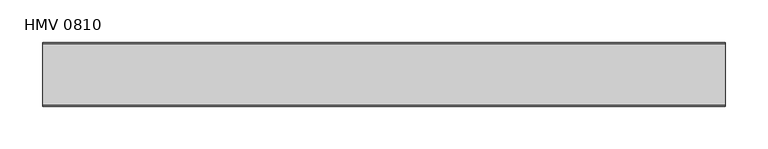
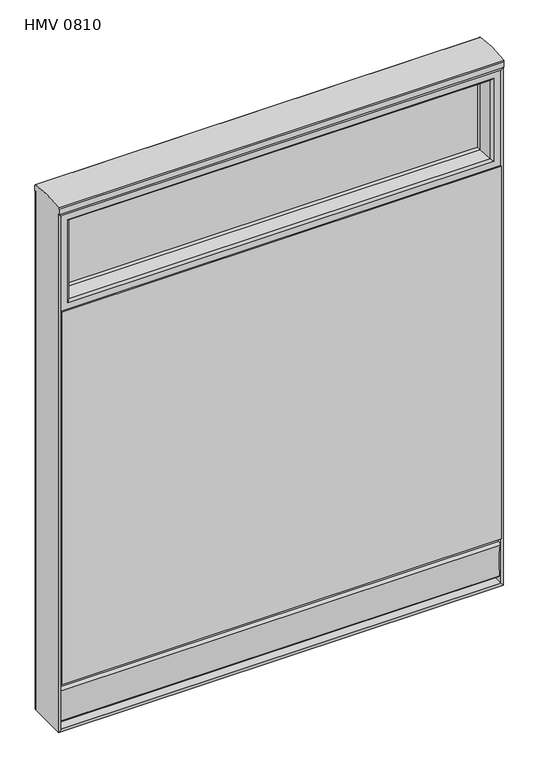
"""IFC4 building model written with IfcOpenShell, lengths in millimetres: furniture geometry, Mobiliário_MobiliáriodeEscritório_LinhaHabitat_PainelHabitatMisto-MelaminaeVidro_Marelli : HMV 0810."""

from ifc_helpers import new_model, si_unit, point, frame, frame_2d, origin, place, context, project, spatial, polyline, circle_curve, ellipse_curve, trimmed, segment, composite_curve, outline, extrude, source, transform, mapped, element, save
from ifc_brep_helpers import plane_surface, cylinder_surface, advanced_brep


def hmv_0810_a3c802d2(model_context):
    return source(origin(), model_context, "Body", "SolidModel", [
        extrude(outline(composite_curve([segment(polyline([(55.0, 90.0), (55.0, 80.0), (65.980067, 80.0)]), True, "CONTINUOUS"), segment(trimmed(circle_curve(frame_2d((65.980067, 75.980067)), 4.019933), [point((65.980067, 80.0))], [point((69.831007, 74.8267575))], False, "CARTESIAN"), True, "CONTINUOUS"), segment(trimmed(circle_curve(frame_2d((200.7096213, 43.9493843)), 134.4716471), [point((69.831007, 74.8267575))], [point((68.9861321, 16.9022723))], True, "CARTESIAN"), True, "CONTINUOUS"), segment(trimmed(circle_curve(frame_2d((67.0270055, 16.5)), 2.0), [point((68.9861321, 16.9022723))], [point((67.0270055, 14.5))], False, "CARTESIAN"), True, "CONTINUOUS"), segment(polyline([(67.0270055, 14.5), (55.0, 14.5), (55.0, 4.5), (20.0, 4.5), (20.0, 14.5), (7.9729945, 14.5)]), True, "CONTINUOUS"), segment(trimmed(circle_curve(frame_2d((7.9729945, 16.5)), 2.0), [point((7.9729945, 14.5))], [point((6.0138679, 16.9022723))], False, "CARTESIAN"), True, "CONTINUOUS"), segment(trimmed(circle_curve(frame_2d((-125.7096213, 43.9493843)), 134.4716471), [point((6.0138679, 16.9022723))], [point((5.168993, 74.8267575))], True, "CARTESIAN"), True, "CONTINUOUS"), segment(trimmed(circle_curve(frame_2d((9.019933, 75.980067)), 4.019933), [point((5.168993, 74.8267575))], [point((9.019933, 80.0))], False, "CARTESIAN"), True, "CONTINUOUS"), segment(polyline([(9.019933, 80.0), (20.0, 80.0), (20.0, 90.0), (55.0, 90.0)]), True, "CONTINUOUS")], self_intersect=False)), frame((4.5, 0.0, 0.0), z_axis=(1.0, 0.0, 0.0), x_axis=(0.0, 1.0, 0.0)), (0.0, 0.0, 1.0), 791.0),
        advanced_brep(
        [(0.0, 0.0, 984.4135569), (0.0, 0.0, 994.184829), (0.0, 1.4147018, 996.2946718), (0.0, 73.7415241, 996.2666026), (0.0, 75.0, 994.2721511), (0.0, 75.0, 984.4135569), (0.0, 72.75, 984.4135569), (0.0, 72.75, 0.0), (0.0, 2.25, 0.0), (0.0, 2.25, 984.4135569), (800.0, 75.0, 984.4135569), (800.0, 75.0, 994.2721511), (800.0, 73.7415241, 996.2666026), (800.0, 1.4147018, 996.2946718), (800.0, 0.0, 994.184829), (800.0, 0.0, 984.4135569), (800.0, 2.25, 984.4135569), (800.0, 2.25, 0.0), (800.0, 72.75, 0.0), (800.0, 72.75, 984.4135569), (4.5, 72.75, 4.5), (795.5, 72.75, 4.5), (795.5, 2.25, 4.5), (4.5, 2.25, 4.5), (795.5, 72.75, 979.9135569), (795.5, 2.25, 979.9135569), (4.5, 72.75, 979.9135569), (4.5, 2.25, 979.9135569)],
        [
            (0, 1),
            (1, 2, circle_curve(frame((0.0, 2.2806283, 994.184829), z_axis=(-1.0, 0.0, 0.0), x_axis=(0.0, 1.0, 0.0)), 2.2806283)),
            (2, 3, circle_curve(frame((0.0, 37.5106051, 822.3310283), z_axis=(-1.0, 0.0, 0.0), x_axis=(0.0, 1.0, 0.0)), 177.6689717)),
            (3, 4, circle_curve(frame((0.0, 72.7903437, 994.2721511), z_axis=(-1.0, 0.0, 0.0), x_axis=(0.0, 1.0, 0.0)), 2.2096563)),
            (4, 5),
            (5, 6),
            (6, 7),
            (7, 8),
            (8, 9),
            (9, 0),
            (10, 11),
            (11, 12, circle_curve(frame((800.0, 72.7903437, 994.2721511), z_axis=(1.0, 0.0, 0.0), x_axis=(0.0, 1.0, 0.0)), 2.2096563)),
            (12, 13, circle_curve(frame((800.0, 37.5106051, 822.3310283), z_axis=(1.0, 0.0, 0.0), x_axis=(0.0, 1.0, 0.0)), 177.6689717)),
            (13, 14, circle_curve(frame((800.0, 2.2806283, 994.184829), z_axis=(1.0, 0.0, 0.0), x_axis=(0.0, 1.0, 0.0)), 2.2806283)),
            (14, 15),
            (15, 16),
            (16, 17),
            (17, 18),
            (18, 19),
            (19, 10),
            (4, 11),
            (10, 5),
            (3, 12),
            (2, 13),
            (1, 14),
            (0, 15),
            (19, 6),
            (9, 16),
            (7, 20, ellipse_curve(frame((2.25, 72.75, 2.25), z_axis=(0.7071067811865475, 0.0, -0.7071067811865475), x_axis=(-0.7071067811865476, 0.0, -0.7071067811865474)), 3.1819805, 2.25)),
            (20, 21),
            (21, 18, ellipse_curve(frame((797.75, 72.75, 2.25), z_axis=(-0.7071067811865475, 0.0, -0.7071067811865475), x_axis=(-0.7071067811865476, 0.0, 0.7071067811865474)), 3.1819805, 2.25)),
            (18, 7),
            (17, 8),
            (17, 22, ellipse_curve(frame((797.75, 2.25, 2.25), z_axis=(-0.7071067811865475, 0.0, -0.7071067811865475), x_axis=(-0.7071067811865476, 0.0, 0.7071067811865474)), 3.1819805, 2.25)),
            (22, 23),
            (23, 8, ellipse_curve(frame((2.25, 2.25, 2.25), z_axis=(0.7071067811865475, 0.0, -0.7071067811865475), x_axis=(-0.7071067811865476, 0.0, -0.7071067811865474)), 3.1819805, 2.25)),
            (20, 23),
            (22, 21),
            (21, 24),
            (24, 19, ellipse_curve(frame((797.75, 72.75, 982.1635569), z_axis=(0.7071067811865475, 0.0, -0.7071067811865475), x_axis=(-0.7071067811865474, 0.0, -0.7071067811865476)), 3.1819805, 2.25)),
            (16, 25, ellipse_curve(frame((797.75, 2.25, 982.1635569), z_axis=(0.7071067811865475, 0.0, -0.7071067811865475), x_axis=(-0.7071067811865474, 0.0, -0.7071067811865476)), 3.1819805, 2.25)),
            (25, 22),
            (25, 24),
            (24, 26),
            (26, 6, ellipse_curve(frame((2.25, 72.75, 982.1635569), z_axis=(0.7071067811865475, 0.0, 0.7071067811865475), x_axis=(0.7071067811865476, 0.0, -0.7071067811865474)), 3.1819805, 2.25)),
            (9, 27, ellipse_curve(frame((2.25, 2.25, 982.1635569), z_axis=(0.7071067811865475, 0.0, 0.7071067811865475), x_axis=(0.7071067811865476, 0.0, -0.7071067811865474)), 3.1819805, 2.25)),
            (27, 25),
            (27, 26),
            (26, 20),
            (23, 27),
        ],
        [
            plane_surface(frame((0.0, 75.0, 994.2721511), z_axis=(-1.0, 0.0, 0.0), x_axis=(0.0, 0.0, -1.0))),
            plane_surface(frame((800.0, 75.0, 994.2721511), z_axis=(1.0, 0.0, 0.0), x_axis=(0.0, 0.0, 1.0))),
            plane_surface(frame((800.0, 75.0, 984.4135569), z_axis=(0.0, 1.0, 0.0), x_axis=(-1.0, 0.0, 0.0))),
            cylinder_surface(frame((0.0, 72.7903437, 994.2721511), z_axis=(1.0, 0.0, 0.0), x_axis=(0.0, 1.0, 0.0)), 2.2096563),
            cylinder_surface(frame((0.0, 37.5106051, 822.3310283), z_axis=(1.0, 0.0, 0.0), x_axis=(0.0, 1.0, 0.0)), 177.6689717),
            cylinder_surface(frame((0.0, 2.2806283, 994.184829), z_axis=(1.0, 0.0, 0.0), x_axis=(0.0, 1.0, 0.0)), 2.2806283),
            plane_surface(frame((800.0, 0.0, 994.184829), z_axis=(0.0, -1.0, 0.0), x_axis=(-1.0, 0.0, 0.0))),
            plane_surface(frame((800.0, 0.0, 984.4135569), z_axis=(0.0, 0.0, -1.0), x_axis=(-1.0, 0.0, 0.0))),
            cylinder_surface(frame((0.0, 72.75, 2.25), z_axis=(-1.0, 0.0, 0.0), x_axis=(0.0, -1.0, 0.0)), 2.25),
            plane_surface(frame((0.0, 72.75, 0.0), z_axis=(0.0, 0.0, -1.0), x_axis=(1.0, 0.0, 0.0))),
            cylinder_surface(frame((0.0, 2.25, 2.25), z_axis=(-1.0, 0.0, 0.0), x_axis=(0.0, -1.0, 0.0)), 2.25),
            plane_surface(frame((4.5, 2.25, 4.5), z_axis=(0.0, 0.0, 1.0), x_axis=(1.0, 0.0, 0.0))),
            cylinder_surface(frame((797.75, 72.75, 0.0), z_axis=(0.0, 0.0, -1.0), x_axis=(0.0, -1.0, 0.0)), 2.25),
            cylinder_surface(frame((797.75, 2.25, 0.0), z_axis=(0.0, 0.0, -1.0), x_axis=(0.0, -1.0, 0.0)), 2.25),
            plane_surface(frame((795.5, 2.25, 4.5), z_axis=(-1.0, 0.0, 0.0), x_axis=(0.0, 0.0, 1.0))),
            cylinder_surface(frame((800.0, 72.75, 982.1635569), z_axis=(1.0, 0.0, 0.0), x_axis=(0.0, -1.0, 0.0)), 2.25),
            cylinder_surface(frame((800.0, 2.25, 982.1635569), z_axis=(1.0, 0.0, 0.0), x_axis=(0.0, -1.0, 0.0)), 2.25),
            plane_surface(frame((795.5, 2.25, 979.9135569), z_axis=(0.0, 0.0, -1.0), x_axis=(-1.0, 0.0, 0.0))),
            cylinder_surface(frame((2.25, 72.75, 984.4135569), z_axis=(0.0, 0.0, 1.0), x_axis=(0.0, -1.0, 0.0)), 2.25),
            cylinder_surface(frame((2.25, 2.25, 984.4135569), z_axis=(0.0, 0.0, 1.0), x_axis=(0.0, -1.0, 0.0)), 2.25),
            plane_surface(frame((4.5, 2.25, 979.9135569), z_axis=(1.0, 0.0, 0.0), x_axis=(0.0, 0.0, -1.0))),
        ],
        [
            (0, [[1, 2, 3, 4, 5, 6, 7, 8, 9, 10]]),
            (1, [[11, 12, 13, 14, 15, 16, 17, 18, 19, 20]]),
            (2, [[-5, 21, -11, 22]]),
            (3, [[-4, 23, -12, -21]]),
            (4, [[-3, 24, -13, -23]]),
            (5, [[-2, 25, -14, -24]]),
            (6, [[-1, 26, -15, -25]]),
            (7, [[-22, -20, 27, -6]]),
            (7, [[-26, -10, 28, -16]]),
            (8, [[29, 30, 31, 32]]),
            (9, [[-32, -18, 33, -8]]),
            (10, [[-33, 34, 35, 36]]),
            (11, [[-30, 37, -35, 38]]),
            (12, [[-31, 39, 40, -19]]),
            (13, [[-34, -17, 41, 42]]),
            (14, [[-38, -42, 43, -39]]),
            (15, [[-40, 44, 45, -27]]),
            (16, [[-41, -28, 46, 47]]),
            (17, [[-43, -47, 48, -44]]),
            (18, [[-29, -7, -45, 49]]),
            (19, [[-36, 50, -46, -9]]),
            (20, [[-37, -49, -48, -50]]),
        ],
    ),
        extrude(outline(polyline([(795.5, 75.0), (795.5, 0.0), (4.5, 0.0), (4.5, 75.0), (795.5, 75.0)])), frame((0.0, 0.0, 90.0), z_axis=(0.0, 0.0, 1.0), x_axis=(1.0, 0.0, 0.0)), (0.0, 0.0, 1.0), 707.5),
        advanced_brep(
        [(795.5, 2.5, 797.5), (795.5, 72.5, 797.5), (795.5, 72.5, 979.9135569), (795.5, 2.5, 979.9135569), (779.3, 6.3, 813.7), (783.1, 2.5, 809.9), (783.1, 2.5, 967.5135569), (779.3, 6.3, 963.7135569), (773.0, 27.5, 820.0), (773.0, 27.5, 957.4135569), (773.0, 47.5, 820.0), (773.0, 47.5, 957.4135569), (779.3, 68.7, 813.7), (779.3, 68.7, 963.7135569), (783.1, 72.5, 809.9), (783.1, 72.5, 967.5135569), (4.5, 72.5, 979.9135569), (4.5, 2.5, 979.9135569), (16.9, 2.5, 967.5135569), (20.7, 6.3, 963.7135569), (27.0, 27.5, 957.4135569), (27.0, 47.5, 957.4135569), (20.7, 68.7, 963.7135569), (16.9, 72.5, 967.5135569), (4.5, 72.5, 797.5), (4.5, 2.5, 797.5), (16.9, 2.5, 809.9), (20.7, 6.3, 813.7), (27.0, 27.5, 820.0), (27.0, 47.5, 820.0), (20.7, 68.7, 813.7), (16.9, 72.5, 809.9)],
        [
            (0, 1),
            (1, 2),
            (2, 3),
            (3, 0),
            (4, 5, ellipse_curve(frame((785.2236888, 8.4236888, 807.7763112), z_axis=(0.7071067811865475, 0.0, 0.7071067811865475), x_axis=(0.7071067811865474, 0.0, -0.7071067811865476)), 8.8994542, 6.2928644)),
            (5, 6),
            (6, 7, ellipse_curve(frame((785.2236888, 8.4236888, 969.6372457), z_axis=(0.7071067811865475, 0.0, -0.7071067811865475), x_axis=(-0.7071067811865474, 0.0, -0.7071067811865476)), 8.8994542, 6.2928644)),
            (7, 4),
            (8, 4),
            (7, 9),
            (9, 8),
            (10, 8),
            (9, 11),
            (11, 10),
            (12, 10),
            (11, 13),
            (13, 12),
            (14, 12, ellipse_curve(frame((785.2236888, 66.5763112, 807.7763112), z_axis=(0.7071067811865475, 0.0, 0.7071067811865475), x_axis=(0.7071067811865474, 0.0, -0.7071067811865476)), 8.8994542, 6.2928644)),
            (13, 15, ellipse_curve(frame((785.2236888, 66.5763112, 969.6372457), z_axis=(0.7071067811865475, 0.0, -0.7071067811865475), x_axis=(-0.7071067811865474, 0.0, -0.7071067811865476)), 8.8994542, 6.2928644)),
            (15, 14),
            (2, 16),
            (16, 17),
            (17, 3),
            (6, 18),
            (18, 19, ellipse_curve(frame((14.7763112, 8.4236888, 969.6372457), z_axis=(0.7071067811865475, 0.0, 0.7071067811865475), x_axis=(0.7071067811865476, 0.0, -0.7071067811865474)), 8.8994542, 6.2928644)),
            (19, 7),
            (19, 20),
            (20, 9),
            (20, 21),
            (21, 11),
            (21, 22),
            (22, 13),
            (22, 23, ellipse_curve(frame((14.7763112, 66.5763112, 969.6372457), z_axis=(0.7071067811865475, 0.0, 0.7071067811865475), x_axis=(0.7071067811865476, 0.0, -0.7071067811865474)), 8.8994542, 6.2928644)),
            (23, 15),
            (16, 24),
            (24, 25),
            (25, 17),
            (18, 26),
            (26, 27, ellipse_curve(frame((14.7763112, 8.4236888, 807.7763112), z_axis=(-0.7071067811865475, 0.0, 0.7071067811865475), x_axis=(0.7071067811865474, 0.0, 0.7071067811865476)), 8.8994542, 6.2928644)),
            (27, 19),
            (27, 28),
            (28, 20),
            (28, 29),
            (29, 21),
            (29, 30),
            (30, 22),
            (30, 31, ellipse_curve(frame((14.7763112, 66.5763112, 807.7763112), z_axis=(-0.7071067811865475, 0.0, 0.7071067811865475), x_axis=(0.7071067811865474, 0.0, 0.7071067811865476)), 8.8994542, 6.2928644)),
            (31, 23),
            (24, 1),
            (0, 25),
            (5, 26),
            (4, 27),
            (8, 28),
            (10, 29),
            (12, 30),
            (14, 31),
        ],
        [
            plane_surface(frame((795.5, 72.5, 797.5), z_axis=(1.0, 0.0, 0.0), x_axis=(0.0, 0.0, 1.0))),
            cylinder_surface(frame((785.2236888, 8.4236888, 797.5), z_axis=(0.0, 0.0, -1.0), x_axis=(-1.0, 0.0, 0.0)), 6.2928644),
            plane_surface(frame((779.3, 6.3, 813.7), z_axis=(-0.9585697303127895, -0.2848579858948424, 0.0), x_axis=(0.0, 0.0, 1.0))),
            plane_surface(frame((773.0, 27.5, 820.0), z_axis=(-1.0, 0.0, 0.0), x_axis=(0.0, 0.0, 1.0))),
            plane_surface(frame((773.0, 47.5, 820.0), z_axis=(-0.9585697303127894, 0.2848579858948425, 0.0), x_axis=(0.0, 0.0, 1.0))),
            cylinder_surface(frame((785.2236888, 66.5763112, 797.5), z_axis=(0.0, 0.0, -1.0), x_axis=(-1.0, 0.0, 0.0)), 6.2928644),
            plane_surface(frame((795.5, 72.5, 979.9135569), z_axis=(0.0, 0.0, 1.0), x_axis=(-1.0, 0.0, 0.0))),
            cylinder_surface(frame((795.5, 8.4236888, 969.6372457), z_axis=(1.0, 0.0, 0.0), x_axis=(0.0, 0.0, -1.0)), 6.2928644),
            plane_surface(frame((779.3, 6.3, 963.7135569), z_axis=(0.0, -0.2848579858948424, -0.9585697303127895), x_axis=(-1.0, 0.0, 0.0))),
            plane_surface(frame((773.0, 27.5, 957.4135569), z_axis=(0.0, 0.0, -1.0), x_axis=(-1.0, 0.0, 0.0))),
            plane_surface(frame((773.0, 47.5, 957.4135569), z_axis=(0.0, 0.2848579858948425, -0.9585697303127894), x_axis=(-1.0, 0.0, 0.0))),
            cylinder_surface(frame((795.5, 66.5763112, 969.6372457), z_axis=(1.0, 0.0, 0.0), x_axis=(0.0, 0.0, -1.0)), 6.2928644),
            plane_surface(frame((4.5, 72.5, 979.9135569), z_axis=(-1.0, 0.0, 0.0), x_axis=(0.0, 0.0, -1.0))),
            cylinder_surface(frame((14.7763112, 8.4236888, 979.9135569), z_axis=(0.0, 0.0, 1.0), x_axis=(1.0, 0.0, 0.0)), 6.2928644),
            plane_surface(frame((20.7, 6.3, 963.7135569), z_axis=(0.9585697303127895, -0.2848579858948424, 0.0), x_axis=(0.0, 0.0, -1.0))),
            plane_surface(frame((27.0, 27.5, 957.4135569), z_axis=(1.0, 0.0, 0.0), x_axis=(0.0, 0.0, -1.0))),
            plane_surface(frame((27.0, 47.5, 957.4135569), z_axis=(0.9585697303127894, 0.2848579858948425, 0.0), x_axis=(0.0, 0.0, -1.0))),
            cylinder_surface(frame((14.7763112, 66.5763112, 979.9135569), z_axis=(0.0, 0.0, 1.0), x_axis=(1.0, 0.0, 0.0)), 6.2928644),
            plane_surface(frame((4.5, 72.5, 797.5), z_axis=(0.0, 0.0, -1.0), x_axis=(1.0, 0.0, 0.0))),
            plane_surface(frame((4.5, 2.5, 797.5), z_axis=(0.0, -1.0, 0.0), x_axis=(1.0, 0.0, 0.0))),
            cylinder_surface(frame((4.5, 8.4236888, 807.7763112), z_axis=(-1.0, 0.0, 0.0), x_axis=(0.0, 0.0, 1.0)), 6.2928644),
            plane_surface(frame((20.7, 6.3, 813.7), z_axis=(0.0, -0.2848579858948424, 0.9585697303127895), x_axis=(1.0, 0.0, 0.0))),
            plane_surface(frame((27.0, 27.5, 820.0), z_axis=(0.0, 0.0, 1.0), x_axis=(1.0, 0.0, 0.0))),
            plane_surface(frame((27.0, 47.5, 820.0), z_axis=(0.0, 0.2848579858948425, 0.9585697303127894), x_axis=(1.0, 0.0, 0.0))),
            cylinder_surface(frame((4.5, 66.5763112, 807.7763112), z_axis=(-1.0, 0.0, 0.0), x_axis=(0.0, 0.0, 1.0)), 6.2928644),
            plane_surface(frame((16.9, 72.5, 809.9), z_axis=(0.0, 1.0, 0.0), x_axis=(1.0, 0.0, 0.0))),
        ],
        [
            (0, [[1, 2, 3, 4]]),
            (1, [[5, 6, 7, 8]]),
            (2, [[9, -8, 10, 11]]),
            (3, [[12, -11, 13, 14]]),
            (4, [[15, -14, 16, 17]]),
            (5, [[18, -17, 19, 20]]),
            (6, [[-3, 21, 22, 23]]),
            (7, [[-7, 24, 25, 26]]),
            (8, [[-10, -26, 27, 28]]),
            (9, [[-13, -28, 29, 30]]),
            (10, [[-16, -30, 31, 32]]),
            (11, [[-19, -32, 33, 34]]),
            (12, [[-22, 35, 36, 37]]),
            (13, [[-25, 38, 39, 40]]),
            (14, [[-27, -40, 41, 42]]),
            (15, [[-29, -42, 43, 44]]),
            (16, [[-31, -44, 45, 46]]),
            (17, [[-33, -46, 47, 48]]),
            (18, [[-36, 49, -1, 50]]),
            (19, [[-23, -37, -50, -4], [51, -38, -24, -6]]),
            (20, [[-39, -51, -5, 52]]),
            (21, [[-41, -52, -9, 53]]),
            (22, [[-43, -53, -12, 54]]),
            (23, [[-45, -54, -15, 55]]),
            (24, [[-47, -55, -18, 56]]),
            (25, [[-49, -35, -21, -2], [-34, -48, -56, -20]]),
        ],
    ),
        extrude(outline(polyline([(773.0, 35.5), (27.0, 35.5), (27.0, 39.5), (773.0, 39.5), (773.0, 35.5)])), frame((0.0, 0.0, 820.0), z_axis=(0.0, 0.0, 1.0), x_axis=(1.0, 0.0, 0.0)), (0.0, 0.0, 1.0), 137.4135569),
    ])


if __name__ == "__main__":
    model = new_model("IFC4")
    model_context = context("Model", 3, world=origin())
    ifc_project = project(units=[si_unit("LENGTHUNIT", "METRE", prefix="MILLI")], contexts=[model_context])
    site = spatial("IfcSite", under=ifc_project)
    building = spatial("IfcBuilding", under=site)
    placement = place(None, origin())
    hmv_0810_shape = hmv_0810_a3c802d2(model_context)
    element("IfcFurniture", 1, ObjectType="Mobiliário_MobiliáriodeEscritório_LinhaHabitat_PainelHabitatMisto-MelaminaeVidro_Marelli : HMV 0810", at=placement, inside=building, context=model_context, shape_type="MappedRepresentation", body=[
        mapped(hmv_0810_shape, transform((0.0, 0.0, 0.0), x_axis=(1.0, 0.0, 0.0), y_axis=(0.0, 1.0, 0.0), z_axis=(0.0, 0.0, 1.0))),
    ])
    save(model, "model.ifc")
